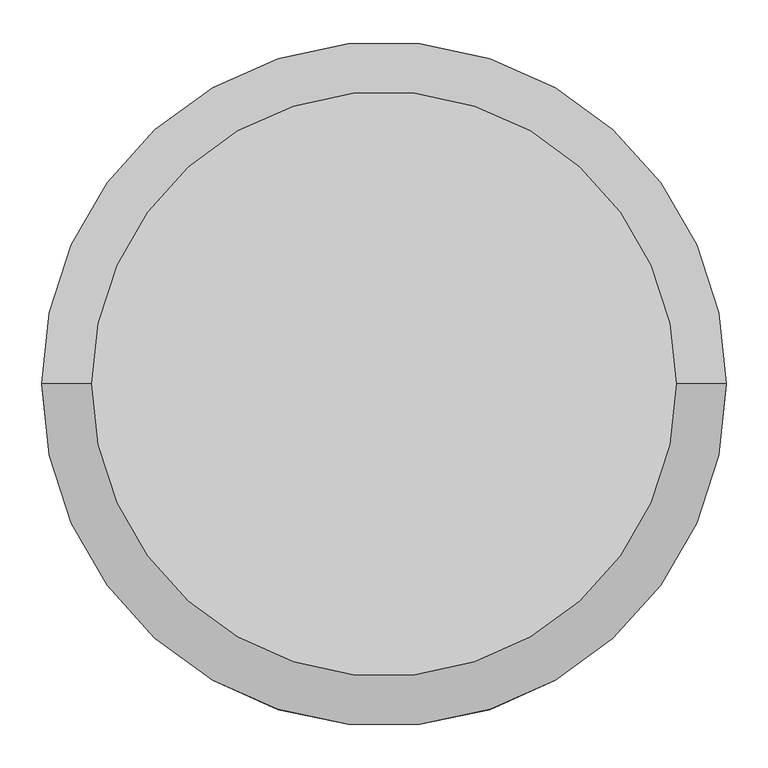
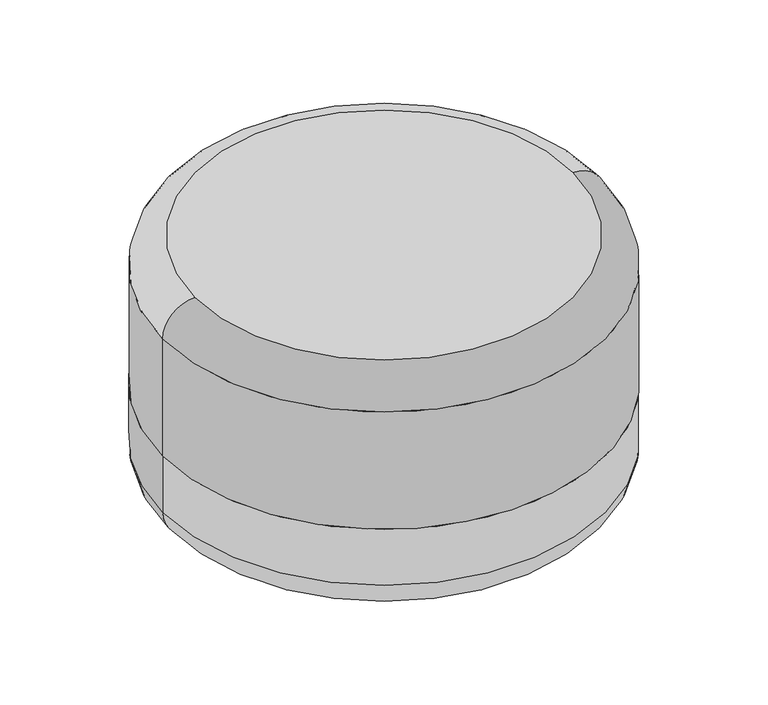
"""IFC4 building model written with IfcOpenShell, lengths in millimetres: furniture geometry, Mobiliário_Mobiliário de Escritório_Puff Blend Redondo 800mm_Marelli : Mobiliário_Mobiliário de Escritório_Puff Blend Redondo 800mm_Marelli."""

from ifc_helpers import new_model, si_unit, point, frame, origin, origin_with_axes, place, context, project, spatial, polyline, circle_curve, ellipse_curve, trimmed, source, transform, mapped, element, save
from ifc_brep_helpers import plane_surface, cylinder_surface, revolved_surface, advanced_brep


def furniture_355175a6(model_context):
    return source(origin(), model_context, "Body", "AdvancedBrep", [
        advanced_brep(
        [(-350.0, 0.0, 460.0), (350.0, 0.0, 460.0), (350.0, 0.0, 459.0), (-350.0, 0.0, 459.0), (-410.0, 0.0, 400.0), (410.0, 0.0, 400.0), (409.0, 0.0, 400.0), (-409.0, 0.0, 400.0), (409.0, 0.0, 170.0), (-409.0, 0.0, 170.0), (-410.0, 0.0, 170.0), (410.0, 0.0, 170.0)],
        [
            (0, 1, circle_curve(frame((0.0, 0.0, 460.0), z_axis=(0.0, 0.0, 1.0), x_axis=(-1.0, 0.0, 0.0)), 350.0)),
            (1, 0, circle_curve(frame((0.0, 0.0, 460.0), z_axis=(0.0, 0.0, 1.0), x_axis=(1.0, 0.0, 0.0)), 350.0)),
            (2, 3, circle_curve(frame((0.0, 0.0, 459.0), z_axis=(0.0, 0.0, -1.0), x_axis=(-1.0, 0.0, 0.0)), 350.0)),
            (3, 2, circle_curve(frame((0.0, 0.0, 459.0), z_axis=(0.0, 0.0, -1.0), x_axis=(1.0, 0.0, 0.0)), 350.0)),
            (0, 4, circle_curve(frame((-350.0, 0.0, 400.0), z_axis=(0.0, -1.0, 0.0), x_axis=(-1.0, 0.0, 0.0)), 60.0)),
            (4, 5, circle_curve(frame((0.0, 0.0, 400.0), z_axis=(0.0, 0.0, 1.0), x_axis=(-1.0, 0.0, 0.0)), 410.0)),
            (5, 1, circle_curve(frame((350.0, 0.0, 400.0), z_axis=(0.0, -1.0, 0.0), x_axis=(1.0, 0.0, 0.0)), 60.0)),
            (6, 7, circle_curve(frame((0.0, 0.0, 400.0), z_axis=(0.0, 0.0, -1.0), x_axis=(-1.0, 0.0, 0.0)), 409.0)),
            (7, 3, circle_curve(frame((-350.0, 0.0, 400.0), z_axis=(0.0, 1.0, 0.0), x_axis=(-1.0, 0.0, 0.0)), 59.0)),
            (2, 6, circle_curve(frame((350.0, 0.0, 400.0), z_axis=(0.0, 1.0, 0.0), x_axis=(1.0, 0.0, 0.0)), 59.0)),
            (6, 8),
            (8, 9, circle_curve(frame((0.0, 0.0, 170.0), z_axis=(0.0, 0.0, -1.0), x_axis=(-1.0, 0.0, 0.0)), 409.0)),
            (9, 7),
            (4, 10),
            (10, 11, circle_curve(frame((0.0, 0.0, 170.0), z_axis=(0.0, 0.0, 1.0), x_axis=(-1.0, 0.0, 0.0)), 410.0)),
            (11, 5),
            (5, 4, circle_curve(frame((0.0, 0.0, 400.0), z_axis=(0.0, 0.0, 1.0), x_axis=(1.0, 0.0, 0.0)), 410.0)),
            (7, 6, circle_curve(frame((0.0, 0.0, 400.0), z_axis=(0.0, 0.0, -1.0), x_axis=(1.0, 0.0, 0.0)), 409.0)),
            (9, 8, circle_curve(frame((0.0, 0.0, 170.0), z_axis=(0.0, 0.0, -1.0), x_axis=(1.0, 0.0, 0.0)), 409.0)),
            (10, 11, circle_curve(frame((0.0, 0.0, 170.0), z_axis=(0.0, 0.0, -1.0), x_axis=(1.0, 0.0, 0.0)), 410.0)),
        ],
        [
            plane_surface(frame((310.0, 0.0, 460.0), z_axis=(0.0, 0.0, 1.0), x_axis=(0.0, 1.0, 0.0))),
            plane_surface(frame((310.0, 0.0, 459.0), z_axis=(0.0, 0.0, -1.0), x_axis=(0.0, -1.0, 0.0))),
            revolved_surface(trimmed(ellipse_curve(frame((-350.0, 0.0, 400.0), z_axis=(0.0, 1.0, 0.0), x_axis=(-1.0, 0.0, 0.0)), 60.0, 60.0), [point((-410.0, 0.0, 400.0))], [point((-350.0, 0.0, 460.0))], True, "CARTESIAN"), (0.0, 0.0, 0.0), (0.0, 0.0, 1.0)),
            revolved_surface(trimmed(ellipse_curve(frame((-350.0, 0.0, 400.0), z_axis=(0.0, -1.0, 0.0), x_axis=(-1.0, 0.0, 0.0)), 59.0, 59.0), [point((-350.0, 0.0, 459.0))], [point((-409.0, 0.0, 400.0))], True, "CARTESIAN"), (0.0, 0.0, 0.0), (0.0, 0.0, 1.0)),
            revolved_surface(polyline([(-409.0, 0.0, 400.0), (-409.0, 0.0, 170.0)]), (0.0, 0.0, 0.0), (0.0, 0.0, 1.0)),
            cylinder_surface(frame((0.0, 0.0, 0.0), z_axis=(0.0, 0.0, 1.0), x_axis=(-1.0, 0.0, 0.0)), 410.0),
            revolved_surface(trimmed(ellipse_curve(frame((350.0, 0.0, 400.0), z_axis=(0.0, -1.0, 0.0), x_axis=(1.0, 0.0, 0.0)), 60.0, 60.0), [point((410.0, 0.0, 400.0))], [point((350.0, 0.0, 460.0))], True, "CARTESIAN"), (0.0, 0.0, 0.0), (0.0, 0.0, 1.0)),
            revolved_surface(trimmed(ellipse_curve(frame((350.0, 0.0, 400.0), z_axis=(0.0, 1.0, 0.0), x_axis=(1.0, 0.0, 0.0)), 59.0, 59.0), [point((350.0, 0.0, 459.0))], [point((409.0, 0.0, 400.0))], True, "CARTESIAN"), (0.0, 0.0, 0.0), (0.0, 0.0, 1.0)),
            revolved_surface(polyline([(409.0, 0.0, 400.0), (409.0, 0.0, 170.0)]), (0.0, 0.0, 0.0), (0.0, 0.0, 1.0)),
            plane_surface(frame((0.0, 0.0, 170.0), z_axis=(0.0, 0.0, -1.0), x_axis=(1.0, 0.0, 0.0))),
            cylinder_surface(origin_with_axes(), 410.0),
        ],
        [
            (0, [[1, 2]]),
            (1, [[3, 4]]),
            (2, [[-1, 5, 6, 7]]),
            (3, [[8, 9, -3, 10]]),
            (4, [[-8, 11, 12, 13]]),
            (5, [[-6, 14, 15, 16]]),
            (6, [[-5, -2, -7, 17]]),
            (7, [[-9, 18, -10, -4]]),
            (8, [[-13, 19, -11, -18]]),
            (9, [[-15, 20], [-12, -19]]),
            (10, [[-14, -17, -16, -20]]),
        ],
    ),
        advanced_brep(
        [(350.0, 0.0, 1.0), (-350.0, 0.0, 1.0), (-350.0, 0.0, 0.0), (350.0, 0.0, 0.0), (409.0, 0.0, 60.0), (-409.0, 0.0, 60.0), (409.0, 0.0, 170.0), (-409.0, 0.0, 170.0), (410.0424122, 0.0, 60.0), (-410.0424122, 0.0, 60.0), (-410.0424122, 0.0, 170.0), (410.0424122, 0.0, 170.0)],
        [
            (0, 1, circle_curve(frame((0.0, 0.0, 1.0), z_axis=(0.0, 0.0, 1.0), x_axis=(-1.0, 0.0, 0.0)), 350.0)),
            (1, 0, circle_curve(frame((0.0, 0.0, 1.0), z_axis=(0.0, 0.0, 1.0), x_axis=(1.0, 0.0, 0.0)), 350.0)),
            (2, 3, circle_curve(frame((0.0, 0.0, 0.0), z_axis=(0.0, 0.0, -1.0), x_axis=(-1.0, 0.0, 0.0)), 350.0)),
            (3, 2, circle_curve(frame((0.0, 0.0, 0.0), z_axis=(0.0, 0.0, -1.0), x_axis=(1.0, 0.0, 0.0)), 350.0)),
            (4, 5, circle_curve(frame((0.0, 0.0, 60.0), z_axis=(0.0, 0.0, 1.0), x_axis=(-1.0, 0.0, 0.0)), 409.0)),
            (5, 1, circle_curve(frame((-350.0, 0.0, 60.0), z_axis=(0.0, -1.0, 0.0), x_axis=(-1.0, 0.0, 0.0)), 59.0)),
            (0, 4, circle_curve(frame((350.0, 0.0, 60.0), z_axis=(0.0, -1.0, 0.0), x_axis=(1.0, 0.0, 0.0)), 59.0)),
            (4, 6),
            (6, 7, circle_curve(frame((0.0, 0.0, 170.0), z_axis=(0.0, 0.0, 1.0), x_axis=(-1.0, 0.0, 0.0)), 409.0)),
            (7, 5),
            (8, 9, circle_curve(frame((0.0, 0.0, 60.0), z_axis=(0.0, 0.0, 1.0), x_axis=(-1.0, 0.0, 0.0)), 410.0424122)),
            (9, 10),
            (10, 11, circle_curve(frame((0.0, 0.0, 170.0), z_axis=(0.0, 0.0, -1.0), x_axis=(-1.0, 0.0, 0.0)), 410.0424122)),
            (11, 8),
            (8, 3, circle_curve(frame((350.0, 0.0, 60.0), z_axis=(0.0, 1.0, 0.0), x_axis=(1.0, 0.0, 0.0)), 60.0)),
            (2, 9, circle_curve(frame((-350.0, 0.0, 60.0), z_axis=(0.0, 1.0, 0.0), x_axis=(-1.0, 0.0, 0.0)), 60.0)),
            (5, 4, circle_curve(frame((0.0, 0.0, 60.0), z_axis=(0.0, 0.0, 1.0), x_axis=(1.0, 0.0, 0.0)), 409.0)),
            (7, 6, circle_curve(frame((0.0, 0.0, 170.0), z_axis=(0.0, 0.0, 1.0), x_axis=(1.0, 0.0, 0.0)), 409.0)),
            (10, 11, circle_curve(frame((0.0, 0.0, 170.0), z_axis=(0.0, 0.0, 1.0), x_axis=(1.0, 0.0, 0.0)), 410.0424122)),
            (9, 8, circle_curve(frame((0.0, 0.0, 60.0), z_axis=(0.0, 0.0, 1.0), x_axis=(1.0, 0.0, 0.0)), 410.0424122)),
        ],
        [
            plane_surface(frame((-310.0, 0.0, 1.0), z_axis=(0.0, 0.0, 1.0), x_axis=(0.0, -1.0, 0.0))),
            plane_surface(frame((-310.0, 0.0, 0.0), z_axis=(0.0, 0.0, -1.0), x_axis=(0.0, 1.0, 0.0))),
            revolved_surface(trimmed(ellipse_curve(frame((-350.0, 0.0, 60.0), z_axis=(0.0, 1.0, 0.0), x_axis=(-1.0, 0.0, 0.0)), 59.0, 59.0), [point((-350.0, 0.0, 1.0))], [point((-409.0, 0.0, 60.0))], True, "CARTESIAN"), (0.0, 0.0, 720.0), (0.0, 0.0, -1.0)),
            revolved_surface(polyline([(-409.0, 0.0, 60.0), (-409.0, 0.0, 170.0)]), (0.0, 0.0, 720.0), (0.0, 0.0, -1.0)),
            cylinder_surface(frame((0.0, 0.0, 720.0), z_axis=(0.0, 0.0, -1.0), x_axis=(-1.0, 0.0, 0.0)), 410.0424122),
            revolved_surface(trimmed(ellipse_curve(frame((-350.0, 0.0, 60.0), z_axis=(0.0, -1.0, 0.0), x_axis=(-1.0, 0.0, 0.0)), 60.0, 60.0), [point((-410.0, 0.0, 60.0))], [point((-350.0, 0.0, 0.0))], True, "CARTESIAN"), (0.0, 0.0, 720.0), (0.0, 0.0, -1.0)),
            revolved_surface(trimmed(ellipse_curve(frame((350.0, 0.0, 60.0), z_axis=(0.0, -1.0, 0.0), x_axis=(1.0, 0.0, 0.0)), 59.0, 59.0), [point((350.0, 0.0, 1.0))], [point((409.0, 0.0, 60.0))], True, "CARTESIAN"), (0.0, 0.0, 720.0), (0.0, 0.0, -1.0)),
            revolved_surface(polyline([(409.0, 0.0, 60.0), (409.0, 0.0, 170.0)]), (0.0, 0.0, 720.0), (0.0, 0.0, -1.0)),
            plane_surface(frame((0.0, 0.0, 170.0), z_axis=(0.0, 0.0, 1.0), x_axis=(1.0, 0.0, 0.0))),
            cylinder_surface(frame((0.0, 0.0, 720.0), z_axis=(0.0, 0.0, -1.0), x_axis=(1.0, 0.0, 0.0)), 410.0424122),
            revolved_surface(trimmed(ellipse_curve(frame((350.0, 0.0, 60.0), z_axis=(0.0, 1.0, 0.0), x_axis=(1.0, 0.0, 0.0)), 60.0, 60.0), [point((410.0, 0.0, 60.0))], [point((350.0, 0.0, 0.0))], True, "CARTESIAN"), (0.0, 0.0, 720.0), (0.0, 0.0, -1.0)),
        ],
        [
            (0, [[1, 2]]),
            (1, [[3, 4]]),
            (2, [[5, 6, -1, 7]]),
            (3, [[-5, 8, 9, 10]]),
            (4, [[11, 12, 13, 14]]),
            (5, [[-11, 15, -3, 16]]),
            (6, [[-6, 17, -7, -2]]),
            (7, [[-10, 18, -8, -17]]),
            (8, [[-13, 19], [-9, -18]]),
            (9, [[-12, 20, -14, -19]]),
            (10, [[-16, -4, -15, -20]]),
        ],
    ),
    ])


if __name__ == "__main__":
    model = new_model("IFC4")
    model_context = context("Model", 3, world=origin())
    ifc_project = project(units=[si_unit("LENGTHUNIT", "METRE", prefix="MILLI")], contexts=[model_context])
    site = spatial("IfcSite", under=ifc_project)
    building = spatial("IfcBuilding", under=site)
    placement = place(None, origin())
    furniture_shape = furniture_355175a6(model_context)
    element("IfcFurniture", 1, ObjectType="Mobiliário_Mobiliário de Escritório_Puff Blend Redondo 800mm_Marelli : Mobiliário_Mobiliário de Escritório_Puff Blend Redondo 800mm_Marelli", at=placement, inside=building, context=model_context, shape_type="MappedRepresentation", body=[
        mapped(furniture_shape, transform((0.0, 0.0, 0.0), x_axis=(1.0, 0.0, 0.0), y_axis=(0.0, 1.0, 0.0), z_axis=(0.0, 0.0, 1.0))),
    ])
    save(model, "model.ifc")
